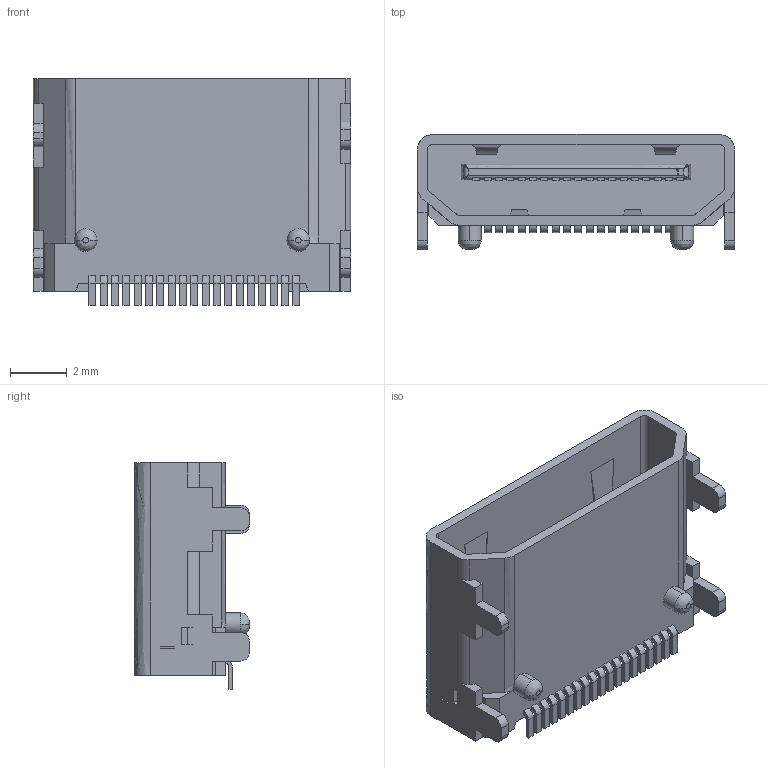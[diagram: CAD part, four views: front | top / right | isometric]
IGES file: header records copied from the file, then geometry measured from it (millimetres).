
Start section: Elysium IGES Interface
Global section: file name: C:\Users\Administrator\Desktop\mini hdmi.igs; native system: SolidDesigner 16.00  13-May-2008; preprocessor: CoCreate IGES_3D V2.2; author: Unknown; organization: Unknown; date: 20151106.105715; units: millimetre
Bounding box: 11.2 x 4.05 x 8 mm (x, y, z)
Volume: 130.3 mm3; surface area: 564.1 mm2
Topology: 1 solids, 1 shells, 664 faces, 1952 edges, 1288 vertices
Faces by surface type: bspline 664
